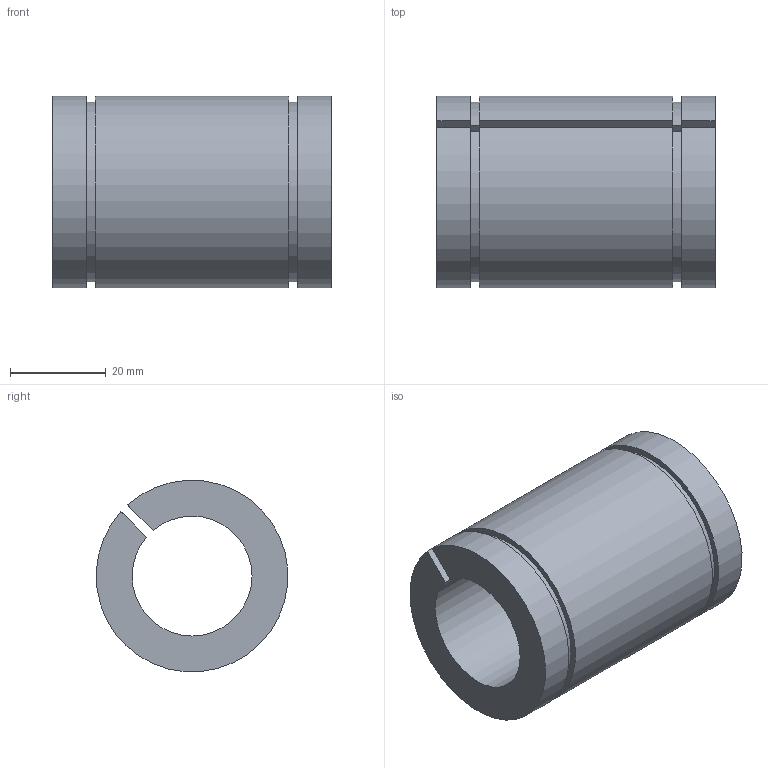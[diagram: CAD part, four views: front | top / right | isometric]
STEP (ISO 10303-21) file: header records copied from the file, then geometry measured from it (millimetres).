
FILE_DESCRIPTION( ( 'STEP AP203' ), '1' );
FILE_NAME( 'p:/temp/worker_97/temp/exporttempdir_3024_767_eNPRY/format_0/LME25UU-AJ.stp', '2020-04-29T03:21:37', ( 'License CC BY-ND 4.0' ), ( 'CADENAS' ), ' ', 'PARTsolutions', ' ' );
FILE_SCHEMA( ( 'CONFIG_CONTROL_DESIGN' ) );
Length unit declared in the file: millimetre
Products named in the file (1): _LME25UU-AJ
Bounding box: 58 x 39.92 x 39.92 mm (x, y, z)
Volume: 42989.9 mm3; surface area: 14545.2 mm2
Topology: 1 solids, 1 shells, 14 faces, 36 edges, 24 vertices
Faces by surface type: plane 8, cylinder 6
Entity records: 476 total; most frequent: DIRECTION 78, CARTESIAN_POINT 75, ORIENTED_EDGE 72, EDGE_CURVE 36, AXIS2_PLACEMENT_3D 27, VERTEX_POINT 24, LINE 24, VECTOR 24
